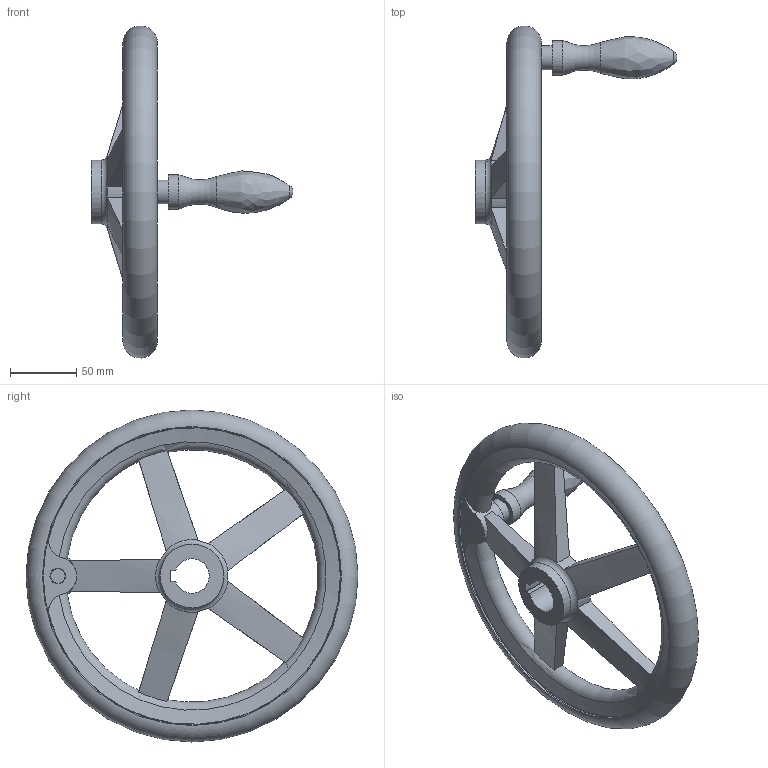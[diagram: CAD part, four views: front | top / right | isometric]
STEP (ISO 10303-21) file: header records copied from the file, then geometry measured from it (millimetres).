
FILE_DESCRIPTION( ( 'STEP AP203' ), '1' );
FILE_NAME( 'C:/Temp/Ganter_Step_05_03_2020/data/1_3/din_950/din_950_k/din_950_k_d/Handwheel DIN 950-AL-250-K26-D.stp', '2020-03-05T10:31:01', ( 'License CC BY-ND 4.0' ), ( 'CADENAS' ), ' ', 'PARTsolutions', ' ' );
FILE_SCHEMA( ( 'CONFIG_CONTROL_DESIGN' ) );
Length unit declared in the file: millimetre
Products named in the file (1): _Handwheel DIN 950-AL-250-K26-D
Bounding box: 152 x 249.92 x 249.92 mm (x, y, z)
Volume: 560588.5 mm3; surface area: 103085.5 mm2
Topology: 1 solids, 1 shells, 63 faces, 180 edges, 116 vertices
Faces by surface type: cylinder 19, plane 19, torus 13, cone 10, bspline 1, sphere 1
Full cylindrical faces by diameter (mm): 18 x1, 26 x1, 48 x2, 224 x2
Entity records: 2489 total; most frequent: CARTESIAN_POINT 958, ORIENTED_EDGE 310, DIRECTION 284, EDGE_CURVE 155, AXIS2_PLACEMENT_3D 128, VERTEX_POINT 112, EDGE_LOOP 91, FACE_OUTER_BOUND 78
